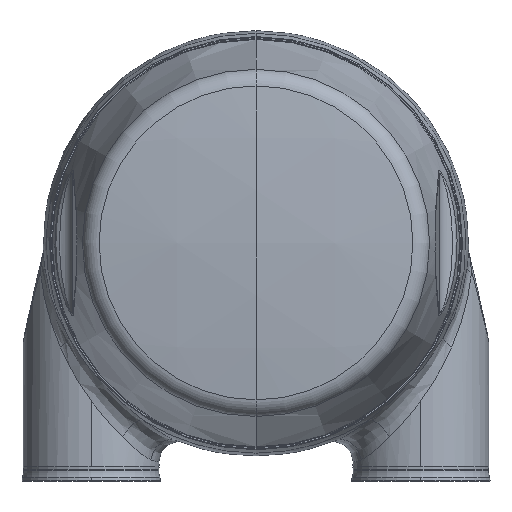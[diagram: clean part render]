
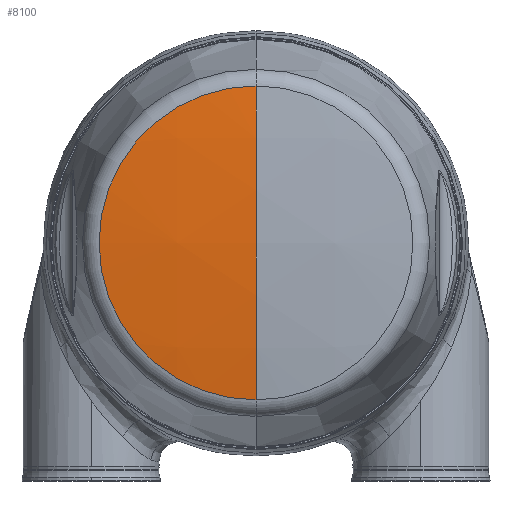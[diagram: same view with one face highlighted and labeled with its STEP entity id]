
A CAD part, top view. The second image highlights one B-rep face of the part: STEP entity #8100.
In plain terms, the highlighted spherical face has radius 200 mm.
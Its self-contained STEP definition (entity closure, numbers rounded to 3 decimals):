
#46 = DIRECTION ( 'NONE',  ( 0., 1., 0. ) ) ;
#81 = CARTESIAN_POINT ( 'NONE',  ( 0., 0., -158.249 ) ) ;
#105 = DIRECTION ( 'NONE',  ( 0., -1., 0. ) ) ;
#377 = ORIENTED_EDGE ( 'NONE', *, *, #14779, .F. ) ;
#438 = VERTEX_POINT ( 'NONE', #15622 ) ;
#606 = CARTESIAN_POINT ( 'NONE',  ( 0., 24.283, 40.272 ) ) ;
#1377 = DIRECTION ( 'NONE',  ( 1., 0., 0. ) ) ;
#2207 = CIRCLE ( 'NONE', #15598, 200. ) ;
#2551 = VERTEX_POINT ( 'NONE', #606 ) ;
#2930 = AXIS2_PLACEMENT_3D ( 'NONE', #16536, #13856, #105 ) ;
#4068 = DIRECTION ( 'NONE',  ( 0., 0., 1. ) ) ;
#4852 = EDGE_CURVE ( 'NONE', #2551, #13138, #14509, .T. ) ;
#5262 = DIRECTION ( 'NONE',  ( 0., -1., 0. ) ) ;
#5679 = CARTESIAN_POINT ( 'NONE',  ( 0., 0., 40.272 ) ) ;
#6528 = AXIS2_PLACEMENT_3D ( 'NONE', #81, #12241, #5262 ) ;
#8100 = ADVANCED_FACE ( 'NONE', ( #13944 ), #11107, .T. ) ;
#8250 = CIRCLE ( 'NONE', #6528, 200. ) ;
#8599 = ORIENTED_EDGE ( 'NONE', *, *, #12155, .T. ) ;
#8780 = EDGE_LOOP ( 'NONE', ( #377, #8599, #17154 ) ) ;
#11107 = SPHERICAL_SURFACE ( 'NONE', #2930, 200. ) ;
#11523 = CARTESIAN_POINT ( 'NONE',  ( 0., -24.283, 40.272 ) ) ;
#12155 = EDGE_CURVE ( 'NONE', #438, #2551, #8250, .T. ) ;
#12241 = DIRECTION ( 'NONE',  ( -1., 0., 0. ) ) ;
#13106 = AXIS2_PLACEMENT_3D ( 'NONE', #5679, #4068, #15314 ) ;
#13138 = VERTEX_POINT ( 'NONE', #11523 ) ;
#13856 = DIRECTION ( 'NONE',  ( -1., 0., 0. ) ) ;
#13944 = FACE_OUTER_BOUND ( 'NONE', #8780, .T. ) ;
#14509 = CIRCLE ( 'NONE', #13106, 24.283 ) ;
#14779 = EDGE_CURVE ( 'NONE', #438, #13138, #2207, .T. ) ;
#15314 = DIRECTION ( 'NONE',  ( 0., 1., 0. ) ) ;
#15598 = AXIS2_PLACEMENT_3D ( 'NONE', #17449, #1377, #46 ) ;
#15622 = CARTESIAN_POINT ( 'NONE',  ( 0., 0., 41.751 ) ) ;
#16536 = CARTESIAN_POINT ( 'NONE',  ( 0., 0., -158.249 ) ) ;
#17154 = ORIENTED_EDGE ( 'NONE', *, *, #4852, .T. ) ;
#17449 = CARTESIAN_POINT ( 'NONE',  ( 0., 0., -158.249 ) ) ;
